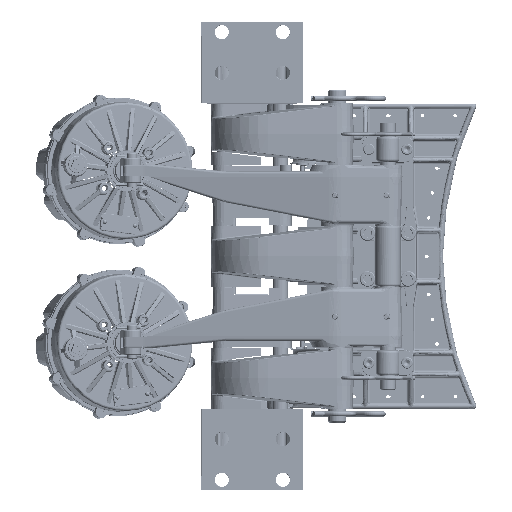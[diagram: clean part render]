
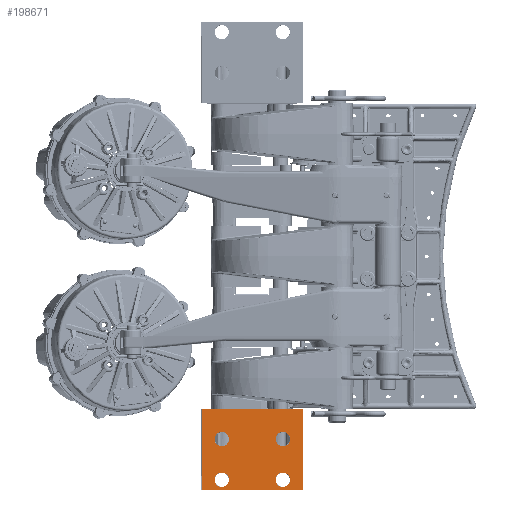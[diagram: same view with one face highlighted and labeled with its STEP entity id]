
A CAD part, top view. The second image highlights one B-rep face of the part: STEP entity #198671.
In plain terms, the highlighted planar face has unit normal (0, 0, 1).
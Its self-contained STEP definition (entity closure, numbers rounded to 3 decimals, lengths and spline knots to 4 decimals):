
#2588 = AXIS2_PLACEMENT_3D ( 'NONE', #227397, #252333, #161360 ) ;
#6744 = DIRECTION ( 'NONE',  ( 0., 1., 0. ) ) ;
#6808 = PLANE ( 'NONE',  #180395 ) ;
#9501 = DIRECTION ( 'NONE',  ( 1., 0., 0. ) ) ;
#10369 = ORIENTED_EDGE ( 'NONE', *, *, #49652, .T. ) ;
#11654 = CARTESIAN_POINT ( 'NONE',  ( -0.737, -11., 7.5 ) ) ;
#12515 = LINE ( 'NONE', #102088, #148921 ) ;
#17998 = CIRCLE ( 'NONE', #257089, 0.3538 ) ;
#23062 = FACE_BOUND ( 'NONE', #54740, .T. ) ;
#23978 = EDGE_CURVE ( 'NONE', #258815, #220451, #213159, .T. ) ;
#25355 = VERTEX_POINT ( 'NONE', #37286 ) ;
#25707 = EDGE_CURVE ( 'NONE', #113852, #255160, #54638, .T. ) ;
#30287 = VERTEX_POINT ( 'NONE', #11654 ) ;
#35553 = CARTESIAN_POINT ( 'NONE',  ( -4.0907, -11., 7.5 ) ) ;
#37286 = CARTESIAN_POINT ( 'NONE',  ( -3.737, -11., 7.5 ) ) ;
#40287 = EDGE_CURVE ( 'NONE', #30287, #51876, #221337, .T. ) ;
#40810 = FACE_BOUND ( 'NONE', #117665, .T. ) ;
#43658 = CARTESIAN_POINT ( 'NONE',  ( -0.0907, -7.5, 7.5 ) ) ;
#45120 = FACE_BOUND ( 'NONE', #226407, .T. ) ;
#45186 = CARTESIAN_POINT ( 'NONE',  ( -4.0907, -11., 7.5 ) ) ;
#45694 = ORIENTED_EDGE ( 'NONE', *, *, #48929, .T. ) ;
#48929 = EDGE_CURVE ( 'NONE', #121470, #113852, #12515, .T. ) ;
#49652 = EDGE_CURVE ( 'NONE', #255160, #155219, #71418, .T. ) ;
#50027 = CARTESIAN_POINT ( 'NONE',  ( -1.0907, -11., 7.5 ) ) ;
#51876 = VERTEX_POINT ( 'NONE', #253484 ) ;
#54638 = LINE ( 'NONE', #167603, #143350 ) ;
#54740 = EDGE_LOOP ( 'NONE', ( #181678, #192916 ) ) ;
#57609 = DIRECTION ( 'NONE',  ( 1., 0., 0. ) ) ;
#61486 = EDGE_CURVE ( 'NONE', #155219, #121470, #226994, .T. ) ;
#62226 = EDGE_CURVE ( 'NONE', #101428, #215559, #77643, .T. ) ;
#63491 = EDGE_CURVE ( 'NONE', #25355, #283083, #199931, .T. ) ;
#64070 = AXIS2_PLACEMENT_3D ( 'NONE', #45186, #177318, #266853 ) ;
#71418 = LINE ( 'NONE', #207810, #168491 ) ;
#73733 = CARTESIAN_POINT ( 'NONE',  ( -4.4445, -11., 7.5 ) ) ;
#73987 = EDGE_CURVE ( 'NONE', #220451, #258815, #253753, .T. ) ;
#74334 = DIRECTION ( 'NONE',  ( 1., 0., 0. ) ) ;
#77643 = CIRCLE ( 'NONE', #2588, 0.3538 ) ;
#78701 = EDGE_CURVE ( 'NONE', #283083, #25355, #217227, .T. ) ;
#80068 = DIRECTION ( 'NONE',  ( 0., -1., 0. ) ) ;
#87312 = CARTESIAN_POINT ( 'NONE',  ( -1.0907, -9., 7.5 ) ) ;
#87711 = ORIENTED_EDGE ( 'NONE', *, *, #23978, .T. ) ;
#96854 = CARTESIAN_POINT ( 'NONE',  ( -3.737, -9., 7.5 ) ) ;
#98665 = DIRECTION ( 'NONE',  ( 1., 0., 0. ) ) ;
#101428 = VERTEX_POINT ( 'NONE', #268722 ) ;
#102088 = CARTESIAN_POINT ( 'NONE',  ( -5.0707, -11.5, 7.5 ) ) ;
#103107 = EDGE_LOOP ( 'NONE', ( #234440, #122640 ) ) ;
#106878 = DIRECTION ( 'NONE',  ( 1., 0., 0. ) ) ;
#109768 = CARTESIAN_POINT ( 'NONE',  ( -1.0907, -9., 7.5 ) ) ;
#112629 = FACE_BOUND ( 'NONE', #103107, .T. ) ;
#113852 = VERTEX_POINT ( 'NONE', #204694 ) ;
#117665 = EDGE_LOOP ( 'NONE', ( #218580, #286569 ) ) ;
#121470 = VERTEX_POINT ( 'NONE', #158384 ) ;
#122640 = ORIENTED_EDGE ( 'NONE', *, *, #78701, .T. ) ;
#127108 = DIRECTION ( 'NONE',  ( 0., 0., -1. ) ) ;
#130870 = CARTESIAN_POINT ( 'NONE',  ( -0.737, -9., 7.5 ) ) ;
#136562 = CIRCLE ( 'NONE', #225628, 0.3538 ) ;
#141669 = AXIS2_PLACEMENT_3D ( 'NONE', #50027, #255442, #277477 ) ;
#143350 = VECTOR ( 'NONE', #98665, 39.3701 ) ;
#143825 = EDGE_LOOP ( 'NONE', ( #168246, #10369, #229825, #45694 ) ) ;
#147591 = AXIS2_PLACEMENT_3D ( 'NONE', #109768, #196366, #106878 ) ;
#148921 = VECTOR ( 'NONE', #80068, 39.3701 ) ;
#150562 = CARTESIAN_POINT ( 'NONE',  ( -4.0907, -9., 7.5 ) ) ;
#155219 = VERTEX_POINT ( 'NONE', #157224 ) ;
#157224 = CARTESIAN_POINT ( 'NONE',  ( -0.1107, -7.5, 7.5 ) ) ;
#158384 = CARTESIAN_POINT ( 'NONE',  ( -5.0707, -7.5, 7.5 ) ) ;
#159032 = EDGE_CURVE ( 'NONE', #51876, #30287, #17998, .T. ) ;
#159518 = DIRECTION ( 'NONE',  ( -1., 0., 0. ) ) ;
#161360 = DIRECTION ( 'NONE',  ( 1., 0., 0. ) ) ;
#161757 = CARTESIAN_POINT ( 'NONE',  ( -1.4445, -9., 7.5 ) ) ;
#166607 = DIRECTION ( 'NONE',  ( 0., 0., -1. ) ) ;
#167603 = CARTESIAN_POINT ( 'NONE',  ( -0.0907, -11.48, 7.5 ) ) ;
#168246 = ORIENTED_EDGE ( 'NONE', *, *, #25707, .T. ) ;
#168491 = VECTOR ( 'NONE', #6744, 39.3701 ) ;
#170922 = VECTOR ( 'NONE', #159518, 39.3701 ) ;
#177318 = DIRECTION ( 'NONE',  ( 0., 0., -1. ) ) ;
#180395 = AXIS2_PLACEMENT_3D ( 'NONE', #209314, #275432, #74334 ) ;
#181678 = ORIENTED_EDGE ( 'NONE', *, *, #185771, .T. ) ;
#183345 = AXIS2_PLACEMENT_3D ( 'NONE', #87312, #222278, #216472 ) ;
#185771 = EDGE_CURVE ( 'NONE', #215559, #101428, #136562, .T. ) ;
#192916 = ORIENTED_EDGE ( 'NONE', *, *, #62226, .T. ) ;
#196366 = DIRECTION ( 'NONE',  ( 0., 0., -1. ) ) ;
#198671 = ADVANCED_FACE ( 'NONE', ( #40810, #45120, #23062, #112629, #202081 ), #6808, .F. ) ;
#199931 = CIRCLE ( 'NONE', #64070, 0.3538 ) ;
#202081 = FACE_OUTER_BOUND ( 'NONE', #143825, .T. ) ;
#204694 = CARTESIAN_POINT ( 'NONE',  ( -5.0707, -11.48, 7.5 ) ) ;
#207810 = CARTESIAN_POINT ( 'NONE',  ( -0.1107, -11.5, 7.5 ) ) ;
#209314 = CARTESIAN_POINT ( 'NONE',  ( -0.0907, -11.5, 7.5 ) ) ;
#211927 = CARTESIAN_POINT ( 'NONE',  ( -0.1107, -11.48, 7.5 ) ) ;
#213159 = CIRCLE ( 'NONE', #147591, 0.3538 ) ;
#215559 = VERTEX_POINT ( 'NONE', #96854 ) ;
#216472 = DIRECTION ( 'NONE',  ( 1., 0., 0. ) ) ;
#217227 = CIRCLE ( 'NONE', #268821, 0.3538 ) ;
#218580 = ORIENTED_EDGE ( 'NONE', *, *, #40287, .T. ) ;
#220451 = VERTEX_POINT ( 'NONE', #130870 ) ;
#221337 = CIRCLE ( 'NONE', #141669, 0.3538 ) ;
#222278 = DIRECTION ( 'NONE',  ( 0., 0., -1. ) ) ;
#225628 = AXIS2_PLACEMENT_3D ( 'NONE', #150562, #127108, #240083 ) ;
#226407 = EDGE_LOOP ( 'NONE', ( #273072, #87711 ) ) ;
#226994 = LINE ( 'NONE', #43658, #170922 ) ;
#227397 = CARTESIAN_POINT ( 'NONE',  ( -4.0907, -9., 7.5 ) ) ;
#229825 = ORIENTED_EDGE ( 'NONE', *, *, #61486, .T. ) ;
#231153 = CARTESIAN_POINT ( 'NONE',  ( -1.0907, -11., 7.5 ) ) ;
#234440 = ORIENTED_EDGE ( 'NONE', *, *, #63491, .T. ) ;
#240083 = DIRECTION ( 'NONE',  ( 1., 0., 0. ) ) ;
#252333 = DIRECTION ( 'NONE',  ( 0., 0., -1. ) ) ;
#253484 = CARTESIAN_POINT ( 'NONE',  ( -1.4445, -11., 7.5 ) ) ;
#253753 = CIRCLE ( 'NONE', #183345, 0.3538 ) ;
#255160 = VERTEX_POINT ( 'NONE', #211927 ) ;
#255442 = DIRECTION ( 'NONE',  ( 0., 0., -1. ) ) ;
#257089 = AXIS2_PLACEMENT_3D ( 'NONE', #231153, #166607, #9501 ) ;
#258815 = VERTEX_POINT ( 'NONE', #161757 ) ;
#261536 = DIRECTION ( 'NONE',  ( 0., 0., -1. ) ) ;
#266853 = DIRECTION ( 'NONE',  ( 1., 0., 0. ) ) ;
#268722 = CARTESIAN_POINT ( 'NONE',  ( -4.4445, -9., 7.5 ) ) ;
#268821 = AXIS2_PLACEMENT_3D ( 'NONE', #35553, #261536, #57609 ) ;
#273072 = ORIENTED_EDGE ( 'NONE', *, *, #73987, .T. ) ;
#275432 = DIRECTION ( 'NONE',  ( 0., 0., -1. ) ) ;
#277477 = DIRECTION ( 'NONE',  ( 1., 0., 0. ) ) ;
#283083 = VERTEX_POINT ( 'NONE', #73733 ) ;
#286569 = ORIENTED_EDGE ( 'NONE', *, *, #159032, .T. ) ;
